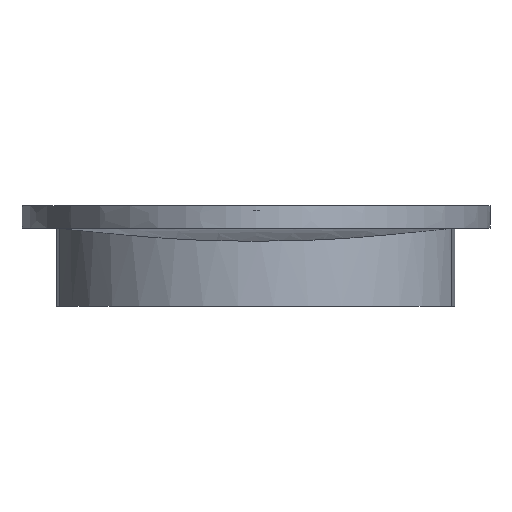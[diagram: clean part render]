
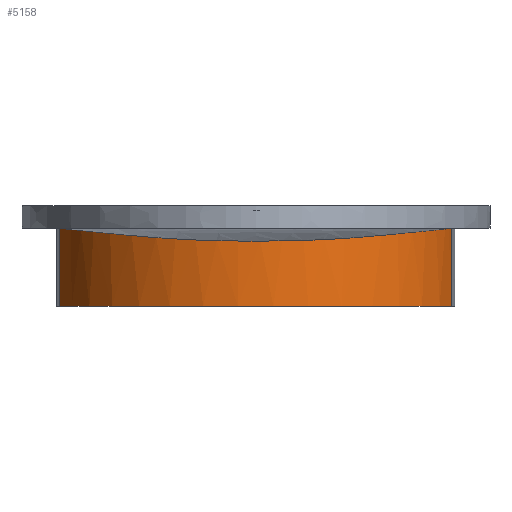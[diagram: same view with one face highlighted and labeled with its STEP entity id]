
A CAD part, left-side view. The second image highlights one B-rep face of the part: STEP entity #5158.
In plain terms, the highlighted cylindrical face has radius 57.15 mm (diameter 114.3 mm), a partial arc.
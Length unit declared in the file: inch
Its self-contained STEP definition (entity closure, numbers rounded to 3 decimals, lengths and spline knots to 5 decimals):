
#354=B_SPLINE_CURVE_WITH_KNOTS('',3,(#10160,#10161,#10162,#10163,#10164,
#10165,#10166,#10167,#10168,#10169,#10170,#10171,#10172,#10173,#10174,#10175,
#10176,#10177,#10178,#10179,#10180,#10181,#10182,#10183),.UNSPECIFIED.,
 .F.,.F.,(4,2,2,2,2,2,2,2,2,2,2,4),(-15.04065,-13.16548,
-11.81751,-9.98671,-8.65669,-7.88906,
-7.21832,-6.46999,-5.24495,-2.98011,
-1.14026,0.),.UNSPECIFIED.);
#974=LINE('',#10157,#1332);
#975=LINE('',#10184,#1333);
#1332=VECTOR('',#6050,0.3937);
#1333=VECTOR('',#6053,0.3937);
#1352=CYLINDRICAL_SURFACE('',#5388,2.25);
#1599=FACE_OUTER_BOUND('',#1945,.T.);
#1945=EDGE_LOOP('',(#4615,#4616,#4617,#4618));
#2023=CIRCLE('',#5331,2.25);
#2452=VERTEX_POINT('',#9715);
#2455=VERTEX_POINT('',#9720);
#2518=VERTEX_POINT('',#10152);
#2519=VERTEX_POINT('',#10159);
#3135=EDGE_CURVE('',#2455,#2452,#2023,.T.);
#3215=EDGE_CURVE('',#2455,#2518,#974,.T.);
#3216=EDGE_CURVE('',#2519,#2518,#354,.T.);
#3217=EDGE_CURVE('',#2452,#2519,#975,.T.);
#4615=ORIENTED_EDGE('',*,*,#3216,.F.);
#4616=ORIENTED_EDGE('',*,*,#3217,.F.);
#4617=ORIENTED_EDGE('',*,*,#3135,.F.);
#4618=ORIENTED_EDGE('',*,*,#3215,.T.);
#5158=ADVANCED_FACE('',(#1599),#1352,.T.);
#5331=AXIS2_PLACEMENT_3D('',#9722,#5919,#5920);
#5388=AXIS2_PLACEMENT_3D('',#10158,#6051,#6052);
#5919=DIRECTION('center_axis',(0.,0.,-1.));
#5920=DIRECTION('ref_axis',(-0.256,-0.967,0.));
#6050=DIRECTION('',(0.,0.,1.));
#6051=DIRECTION('center_axis',(0.,0.,1.));
#6052=DIRECTION('ref_axis',(-1.,0.,0.));
#6053=DIRECTION('',(0.,0.,1.));
#9715=CARTESIAN_POINT('',(-0.57606,2.17501,-0.02));
#9720=CARTESIAN_POINT('',(-0.57606,-2.17501,-0.02));
#9722=CARTESIAN_POINT('Origin',(0.,0.,-0.02));
#10152=CARTESIAN_POINT('',(-0.57606,-2.17501,0.84622));
#10157=CARTESIAN_POINT('',(-0.57606,-2.17501,0.));
#10158=CARTESIAN_POINT('Origin',(0.,0.,0.));
#10159=CARTESIAN_POINT('',(-0.57606,2.17501,0.84622));
#10160=CARTESIAN_POINT('Ctrl Pts',(-0.57606,2.17501,
0.84622));
#10161=CARTESIAN_POINT('Ctrl Pts',(-0.81383,2.11203,
0.84028));
#10162=CARTESIAN_POINT('Ctrl Pts',(-1.03948,2.01056,0.83043));
#10163=CARTESIAN_POINT('Ctrl Pts',(-1.39137,1.77702,0.80668));
#10164=CARTESIAN_POINT('Ctrl Pts',(-1.52641,1.66244,0.79476));
#10165=CARTESIAN_POINT('Ctrl Pts',(-1.80991,1.35799,0.76462));
#10166=CARTESIAN_POINT('Ctrl Pts',(-1.94423,1.15759,0.74602));
#10167=CARTESIAN_POINT('Ctrl Pts',(-2.11718,0.78128,
0.72201));
#10168=CARTESIAN_POINT('Ctrl Pts',(-2.17133,0.61506,
0.71462));
#10169=CARTESIAN_POINT('Ctrl Pts',(-2.22564,0.3452,
0.70806));
#10170=CARTESIAN_POINT('Ctrl Pts',(-2.23886,0.24524,
0.70672));
#10171=CARTESIAN_POINT('Ctrl Pts',(-2.251,0.05691,
0.70556));
#10172=CARTESIAN_POINT('Ctrl Pts',(-2.2515,-0.03125,
0.70552));
#10173=CARTESIAN_POINT('Ctrl Pts',(-2.24165,-0.21716,
0.70644));
#10174=CARTESIAN_POINT('Ctrl Pts',(-2.23004,-0.31476,
0.70758));
#10175=CARTESIAN_POINT('Ctrl Pts',(-2.18271,-0.56933,
0.71318));
#10176=CARTESIAN_POINT('Ctrl Pts',(-2.13654,-0.72352,
0.71933));
#10177=CARTESIAN_POINT('Ctrl Pts',(-1.95935,-1.14524,
0.74392));
#10178=CARTESIAN_POINT('Ctrl Pts',(-1.79144,-1.39324,
0.76782));
#10179=CARTESIAN_POINT('Ctrl Pts',(-1.40903,-1.77063,
0.80581));
#10180=CARTESIAN_POINT('Ctrl Pts',(-1.21149,-1.91128,
0.82046));
#10181=CARTESIAN_POINT('Ctrl Pts',(-0.86105,-2.08409,
0.83757));
#10182=CARTESIAN_POINT('Ctrl Pts',(-0.72067,-2.13671,
0.84261));
#10183=CARTESIAN_POINT('Ctrl Pts',(-0.57606,-2.17501,
0.84622));
#10184=CARTESIAN_POINT('',(-0.57606,2.17501,0.));
